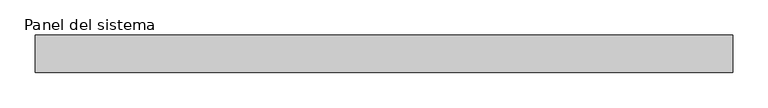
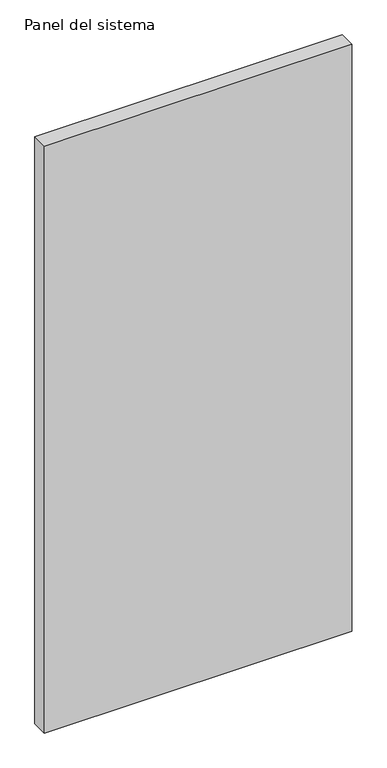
"""IFC4 building model written with IfcOpenShell, lengths in millimetres: plate geometry, Panel del sistema : HIANSA - CHAPA PERFILADA CUBIERTA - MT53MA6 Vert."""

from ifc_helpers import new_model, si_unit, origin, origin_with_axes, place, context, project, spatial, polyline, outline, extrude, source, transform, mapped, element, save


def panel_del_sistema_2bad36e5(model_context):
    return source(origin(), model_context, "Body", "SweptSolid", [
        extrude(outline(polyline([(495.0000002, -52.5), (-495.0000002, -52.5), (-495.0000002, 0.5), (495.0000002, 0.5), (495.0000002, -52.5)])), origin_with_axes(), (0.0, 0.0, 1.0), 2000.0),
    ])


if __name__ == "__main__":
    model = new_model("IFC4")
    model_context = context("Model", 3, world=origin())
    ifc_project = project(units=[si_unit("LENGTHUNIT", "METRE", prefix="MILLI")], contexts=[model_context])
    site = spatial("IfcSite", under=ifc_project)
    building = spatial("IfcBuilding", under=site)
    placement = place(None, origin())
    panel_del_sistema_shape = panel_del_sistema_2bad36e5(model_context)
    element("IfcPlate", 1, ObjectType="Panel del sistema : HIANSA - CHAPA PERFILADA CUBIERTA - MT53MA6 Vert", at=placement, inside=building, context=model_context, shape_type="MappedRepresentation", body=[
        mapped(panel_del_sistema_shape, transform((0.0, 0.0, 0.0), x_axis=(1.0, 0.0, 0.0), y_axis=(0.0, 1.0, 0.0), z_axis=(0.0, 0.0, 1.0))),
    ])
    save(model, "model.ifc")
